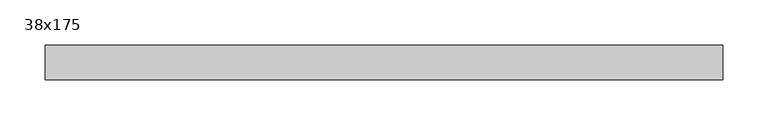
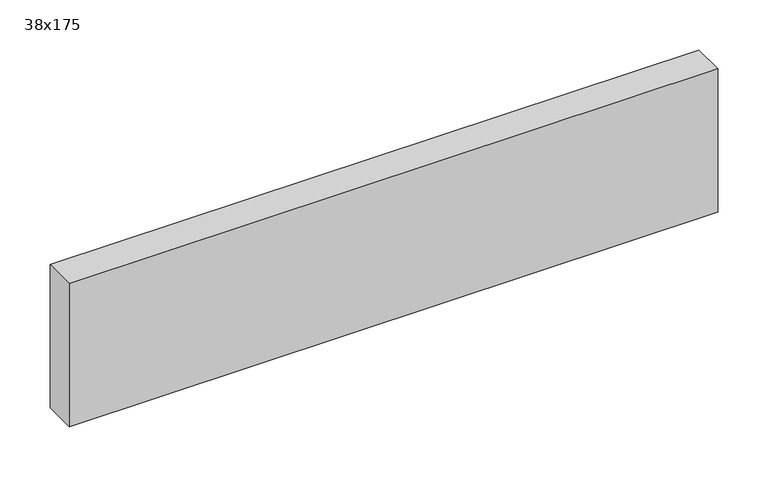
"""IFC4 building model written with IfcOpenShell, lengths in millimetres: beam geometry, Graded Timber : 38x175."""

from ifc_helpers import new_model, si_unit, frame, origin, place, context, project, spatial, polyline, outline, extrude, source, transform, mapped, element, save


def beam_38x175_786eaa01(model_context):
    return source(origin(), model_context, "Body", "SweptSolid", [
        extrude(outline(polyline([(378.8480763, 19.0), (378.8480763, -19.0), (-369.8934199, -19.0), (-369.8934199, 19.0), (378.8480763, 19.0)])), frame((0.0, 0.0, -87.5), z_axis=(0.0, 0.0, 1.0), x_axis=(1.0, 0.0, 0.0)), (0.0, 0.0, 1.0), 175.0),
    ])


if __name__ == "__main__":
    model = new_model("IFC4")
    model_context = context("Model", 3, world=origin())
    ifc_project = project(units=[si_unit("LENGTHUNIT", "METRE", prefix="MILLI")], contexts=[model_context])
    site = spatial("IfcSite", under=ifc_project)
    building = spatial("IfcBuilding", under=site)
    placement = place(None, origin())
    beam_38x175_shape = beam_38x175_786eaa01(model_context)
    element("IfcBeam", 1, ObjectType="Graded Timber : 38x175", at=placement, inside=building, context=model_context, shape_type="MappedRepresentation", body=[
        mapped(beam_38x175_shape, transform((0.0, 0.0, 0.0), x_axis=(1.0, 0.0, 0.0), y_axis=(0.0, 1.0, 0.0), z_axis=(0.0, 0.0, 1.0))),
    ])
    save(model, "model.ifc")
